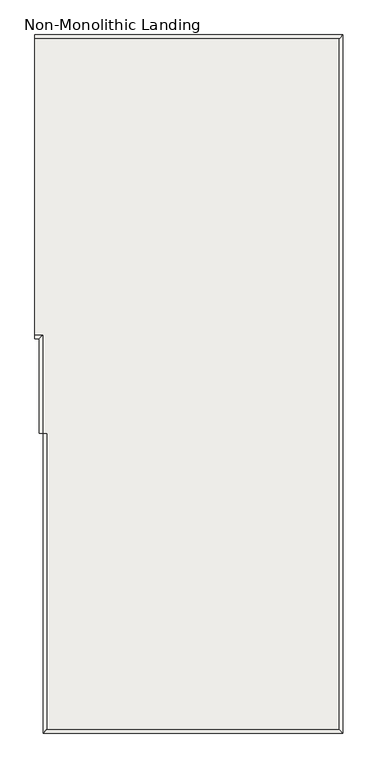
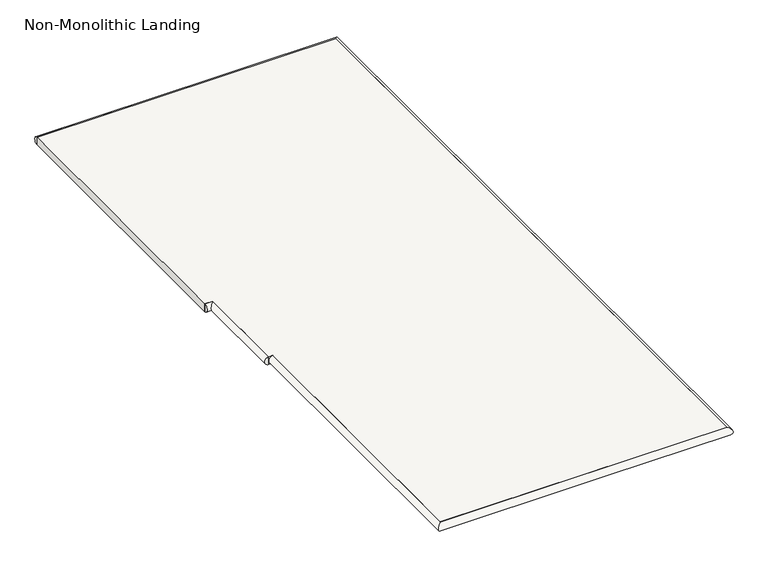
"""IFC4 building model written with IfcOpenShell, lengths in millimetres: slab geometry, Non-Monolithic Landing."""

from ifc_helpers import new_model, si_unit, frame, origin, place, context, project, spatial, circle_curve, ellipse_curve, faceted_brep, source, transform, mapped, element, save
from ifc_brep_helpers import plane_surface, cylinder_surface, advanced_brep


def non_monolithic_landing_c2a4e878(model_context):
    return source(origin(), model_context, "Body", "SolidModel", [
        faceted_brep([(-16004.0481446, 4870.3128094, 1524.0), (-15991.3481446, 4870.3128094, 1524.0), (-15991.3481446, 3955.9128094, 1524.0), (-15089.6481446, 3955.9128094, 1524.0), (-15089.6481446, 6089.5128094, 1524.0), (-16004.0481446, 6089.5128094, 1524.0), (-16029.4481446, 6089.5128094, 1524.0), (-16029.4481446, 5175.1128094, 1524.0), (-16004.0481446, 5175.1128094, 1524.0), (-16004.0481446, 4870.3128094, 1498.6), (-16004.0481446, 5175.1128094, 1498.6), (-16029.4481446, 5175.1128094, 1498.6), (-16029.4481446, 6089.5128094, 1498.6), (-16004.0481446, 6089.5128094, 1498.6), (-15089.6481446, 6089.5128094, 1498.6), (-15089.6481446, 3955.9128094, 1498.6), (-15991.3481446, 3955.9128094, 1498.6), (-15991.3481446, 4870.3128094, 1498.6)], [[[0, 1, 2, 3, 4, 5, 6, 7, 8]], [[9, 10, 11, 12, 13, 14, 15, 16, 17]], [[1, 0, 9, 17]], [[2, 1, 17, 16]], [[3, 2, 16, 15]], [[4, 3, 15, 14]], [[5, 4, 14, 13]], [[6, 5, 13, 12]], [[7, 6, 12, 11]], [[8, 7, 11, 10]], [[0, 8, 10, 9]]]),
        advanced_brep(
        [(-16029.4481446, 6089.5128094, 1524.0), (-16029.4481446, 6089.5128094, 1498.6), (-15089.6481446, 6089.5128094, 1524.0), (-15089.6481446, 6089.5128094, 1498.6), (-15089.6481446, 3955.9128094, 1524.0), (-15089.6481446, 3955.9128094, 1498.6), (-15991.3481446, 3955.9128094, 1524.0), (-15991.3481446, 3955.9128094, 1498.6), (-15991.3481446, 4870.3128094, 1524.0), (-15991.3481446, 4870.3128094, 1498.6)],
        [
            (0, 1, circle_curve(frame((-16029.4481446, 6089.5128094, 1511.3), z_axis=(-1.0, 0.0, 0.0), x_axis=(0.0, -1.0, 0.0)), 12.7)),
            (1, 0),
            (0, 2),
            (2, 3, ellipse_curve(frame((-15089.6481446, 6089.5128094, 1511.3), z_axis=(-0.7071067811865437, 0.7071067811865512, 0.0), x_axis=(-0.7071067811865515, -0.7071067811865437, 0.0)), 17.9605122, 12.7)),
            (3, 1),
            (3, 2),
            (2, 4),
            (4, 5, ellipse_curve(frame((-15089.6481446, 3955.9128094, 1511.3), z_axis=(0.7071067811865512, 0.7071067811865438, 0.0), x_axis=(-0.7071067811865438, 0.7071067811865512, 0.0)), 17.9605122, 12.7)),
            (5, 3),
            (5, 4),
            (4, 6),
            (6, 7, ellipse_curve(frame((-15991.3481446, 3955.9128094, 1511.3), z_axis=(0.7071067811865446, -0.7071067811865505, 0.0), x_axis=(0.7071067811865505, 0.7071067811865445, 0.0)), 17.9605122, 12.7)),
            (7, 5),
            (7, 6),
            (8, 9),
            (9, 8, circle_curve(frame((-15991.3481446, 4870.3128094, 1511.3), z_axis=(0.0, 1.0, 0.0), x_axis=(1.0, 0.0, 0.0)), 12.7)),
            (6, 8),
            (9, 7),
        ],
        [
            plane_surface(frame((-16029.4481446, 6089.5128094, 1524.0), z_axis=(-1.0, 0.0, 0.0), x_axis=(0.0, -1.0, 0.0))),
            cylinder_surface(frame((-16029.4481446, 6089.5128094, 1511.3), z_axis=(-1.0, 0.0, 0.0), x_axis=(0.0, -1.0, 0.0)), 12.7),
            plane_surface(frame((-16029.4481446, 6089.5128094, 1498.6), z_axis=(0.0, -1.0, 0.0), x_axis=(1.0, 0.0, 0.0))),
            cylinder_surface(frame((-15089.6481446, 6089.5128094, 1511.3), z_axis=(0.0, 1.0, 0.0), x_axis=(-1.0, 0.0, 0.0)), 12.7),
            plane_surface(frame((-15089.6481446, 6089.5128094, 1498.6), z_axis=(-1.0, 0.0, 0.0), x_axis=(0.0, -1.0, 0.0))),
            cylinder_surface(frame((-15089.6481446, 3955.9128094, 1511.3), z_axis=(1.0, 0.0, 0.0), x_axis=(0.0, 1.0, 0.0)), 12.7),
            plane_surface(frame((-15089.6481446, 3955.9128094, 1498.6), z_axis=(0.0, 1.0, 0.0), x_axis=(-1.0, 0.0, 0.0))),
            plane_surface(frame((-16016.7481446, 4870.3128094, 1524.0), z_axis=(0.0, 1.0, 0.0), x_axis=(0.0, 0.0, 1.0))),
            cylinder_surface(frame((-15991.3481446, 3955.9128094, 1511.3), z_axis=(0.0, -1.0, 0.0), x_axis=(1.0, 0.0, 0.0)), 12.7),
            plane_surface(frame((-15991.3481446, 3955.9128094, 1498.6), z_axis=(1.0, 0.0, 0.0), x_axis=(0.0, 1.0, 0.0))),
        ],
        [
            (0, [[1, 2]]),
            (1, [[-1, 3, 4, 5]]),
            (2, [[-2, -5, 6, -3]]),
            (3, [[-4, 7, 8, 9]]),
            (4, [[-6, -9, 10, -7]]),
            (5, [[-8, 11, 12, 13]]),
            (6, [[-10, -13, 14, -11]]),
            (7, [[15, 16]]),
            (8, [[-12, 17, -16, 18]]),
            (9, [[-14, -18, -15, -17]]),
        ],
    ),
        advanced_brep(
        [(-16004.0481446, 4870.3128094, 1524.0), (-16004.0481446, 4870.3128094, 1498.6), (-16004.0481446, 5175.1128094, 1524.0), (-16004.0481446, 5175.1128094, 1498.6), (-16029.4481446, 5175.1128094, 1524.0), (-16029.4481446, 5175.1128094, 1498.6)],
        [
            (0, 1, circle_curve(frame((-16004.0481446, 4870.3128094, 1511.3), z_axis=(0.0, -1.0, 0.0), x_axis=(1.0, 0.0, 0.0)), 12.7)),
            (1, 0),
            (0, 2),
            (2, 3, ellipse_curve(frame((-16004.0481446, 5175.1128094, 1511.3), z_axis=(0.7071067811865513, -0.7071067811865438, 0.0), x_axis=(-0.7071067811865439, -0.7071067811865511, 0.0)), 17.9605122, 12.7)),
            (3, 1),
            (3, 2),
            (4, 5),
            (5, 4, circle_curve(frame((-16029.4481446, 5175.1128094, 1511.3), z_axis=(-1.0, 0.0, 0.0), x_axis=(0.0, 1.0, 0.0)), 12.7)),
            (2, 4),
            (5, 3),
        ],
        [
            plane_surface(frame((-16029.4481446, 4870.3128094, 1524.0), z_axis=(0.0, -1.0, 0.0), x_axis=(0.0, 0.0, 1.0))),
            cylinder_surface(frame((-16004.0481446, 4870.3128094, 1511.3), z_axis=(0.0, -1.0, 0.0), x_axis=(1.0, 0.0, 0.0)), 12.7),
            plane_surface(frame((-16004.0481446, 4870.3128094, 1498.6), z_axis=(1.0, 0.0, 0.0), x_axis=(0.0, 1.0, 0.0))),
            plane_surface(frame((-16029.4481446, 5175.1128094, 1524.0), z_axis=(-1.0, 0.0, 0.0), x_axis=(0.0, -1.0, 0.0))),
            cylinder_surface(frame((-16004.0481446, 5175.1128094, 1511.3), z_axis=(1.0, 0.0, 0.0), x_axis=(0.0, 1.0, 0.0)), 12.7),
            plane_surface(frame((-16004.0481446, 5175.1128094, 1498.6), z_axis=(0.0, 1.0, 0.0), x_axis=(-1.0, 0.0, 0.0))),
        ],
        [
            (0, [[1, 2]]),
            (1, [[-1, 3, 4, 5]]),
            (2, [[-2, -5, 6, -3]]),
            (3, [[7, 8]]),
            (4, [[-4, 9, -8, 10]]),
            (5, [[-6, -10, -7, -9]]),
        ],
    ),
    ])


if __name__ == "__main__":
    model = new_model("IFC4")
    model_context = context("Model", 3, world=origin())
    ifc_project = project(units=[si_unit("LENGTHUNIT", "METRE", prefix="MILLI")], contexts=[model_context])
    site = spatial("IfcSite", under=ifc_project)
    building = spatial("IfcBuilding", under=site)
    placement = place(None, origin())
    non_monolithic_landing_shape = non_monolithic_landing_c2a4e878(model_context)
    element("IfcSlab", 1, ObjectType="Non-Monolithic Landing", at=placement, inside=building, context=model_context, shape_type="MappedRepresentation", body=[
        mapped(non_monolithic_landing_shape, transform((0.0, 0.0, 0.0), x_axis=(1.0, 0.0, 0.0), y_axis=(0.0, 1.0, 0.0), z_axis=(0.0, 0.0, 1.0))),
    ])
    save(model, "model.ifc")
